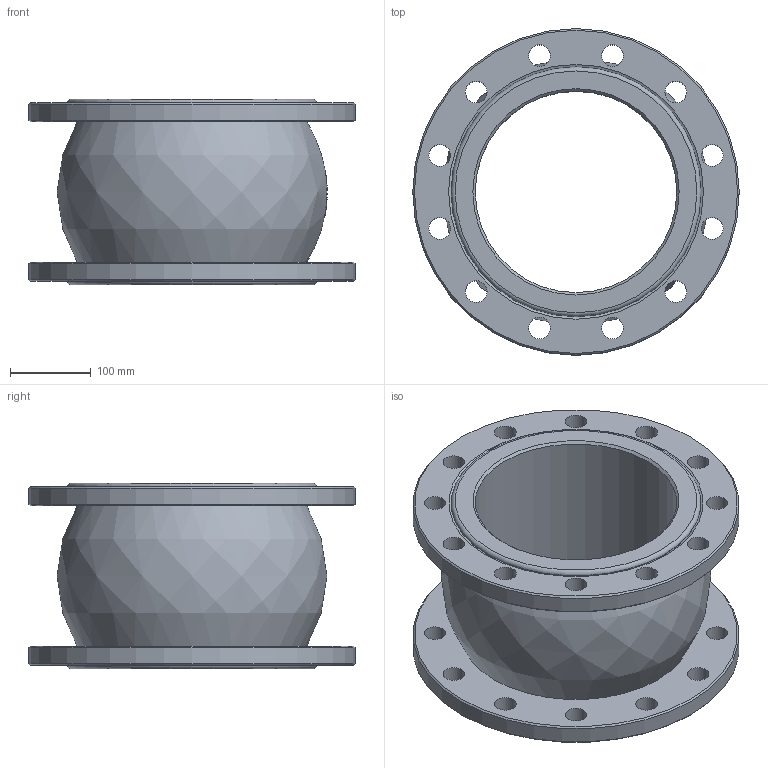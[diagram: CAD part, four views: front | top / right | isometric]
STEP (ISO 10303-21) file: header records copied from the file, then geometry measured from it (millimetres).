
FILE_DESCRIPTION(/* description */ ('D140-02108','CAx-IF Rec.Pracs.---Representation and Presentation of Product Manufacturing Information (PMI)---4.0---2014-10-13'),/* implementation_level */ '2;1');
FILE_NAME(/* name */ '',/* time_stamp */ '2026-03-11T00:50:30+03:00',/* author */ ('DN.RU'),/* organization */ ('DN.RU'),/* preprocessor_version */ 'ST-DEVELOPER v20',/* originating_system */ 'Autodesk Inventor 2025',/* authorisation */ '');
FILE_SCHEMA (('AP242_MANAGED_MODEL_BASED_3D_ENGINEERING_MIM_LF { 1 0 10303 442 1 1 4 }'));
Length unit declared in the file: millimetre
Products named in the file (1): CR-N34-F
Bounding box: 405 x 405 x 230 mm (x, y, z)
Volume: 9028340.9 mm3; surface area: 735391.3 mm2
Topology: 1 solids, 1 shells, 115 faces, 316 edges, 210 vertices
Faces by surface type: plane 43, bspline 34, cylinder 29, cone 7, torus 2
Full cylindrical faces by diameter (mm): 27 x24, 250 x1, 310 x2, 405 x2
Entity records: 5022 total; most frequent: CARTESIAN_POINT 1709, DIRECTION 650, ORIENTED_EDGE 632, EDGE_CURVE 316, AXIS2_PLACEMENT_3D 277, VERTEX_POINT 210, CIRCLE 182, EDGE_LOOP 172
